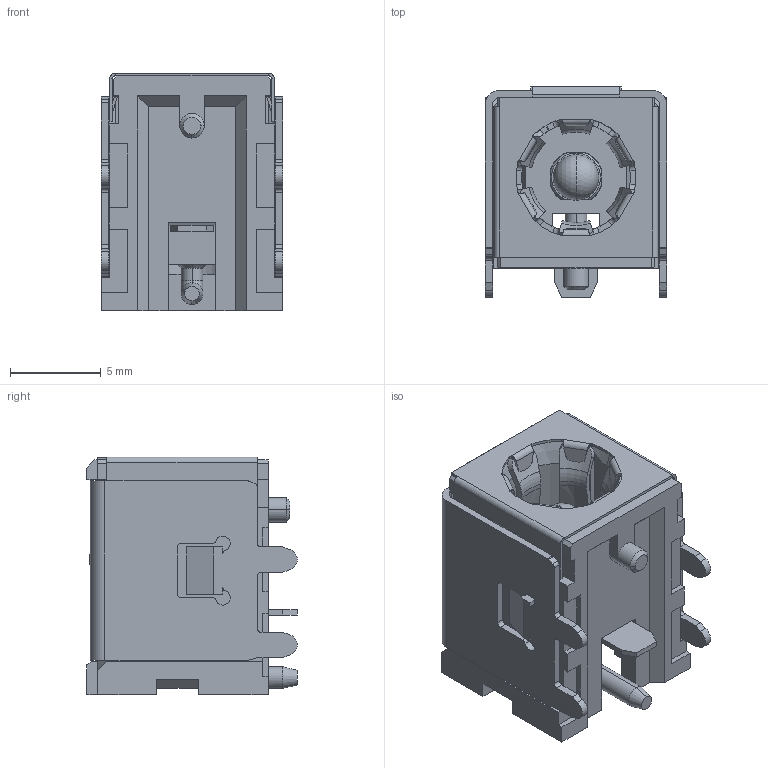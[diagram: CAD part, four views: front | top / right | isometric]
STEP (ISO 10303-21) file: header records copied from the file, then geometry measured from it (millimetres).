
FILE_DESCRIPTION (( 'STEP AP203' ), '1' );
FILE_NAME ('DC-S018A-D020-10A.STEP', '2023-08-29T07:06:32', ( '' ), ( '' ), 'SwSTEP 2.0', 'SolidWorks 2023', '' );
FILE_SCHEMA (( 'CONFIG_CONTROL_DESIGN' ));
Length unit declared in the file: millimetre
Products named in the file (1): DC-S018A-D020-10A
Bounding box: 10 x 11.6 x 13.1 mm (x, y, z)
Volume: 831.3 mm3; surface area: 1935.3 mm2
Topology: 1 solids, 1 shells, 940 faces, 2706 edges, 1752 vertices
Faces by surface type: plane 550, cylinder 173, bspline 122, cone 47, torus 38, sphere 10
Entity records: 36649 total; most frequent: CARTESIAN_POINT 12590, ORIENTED_EDGE 5404, DIRECTION 4429, EDGE_CURVE 2702, LINE 1801, VECTOR 1801, VERTEX_POINT 1750, AXIS2_PLACEMENT_3D 1314
